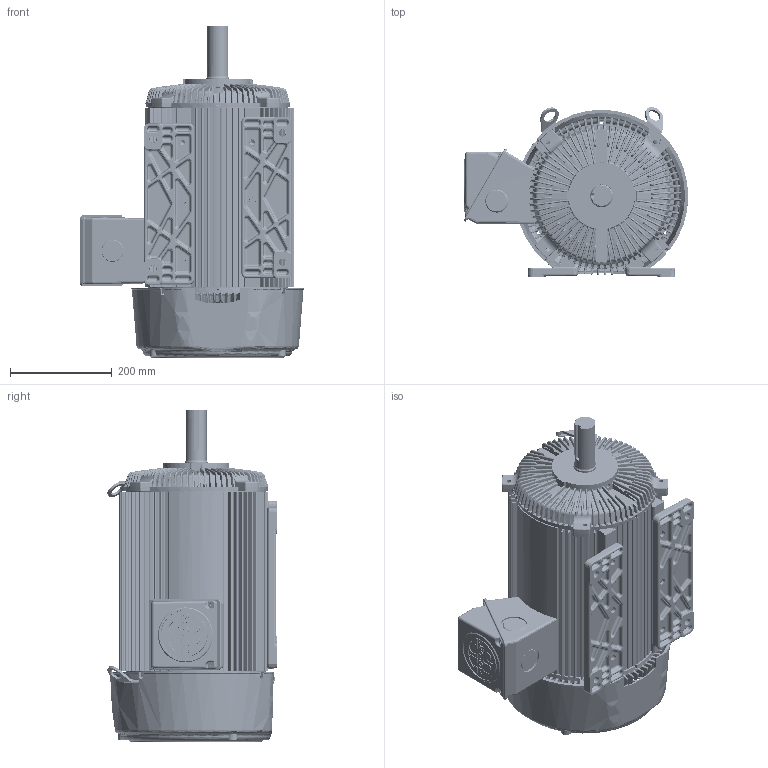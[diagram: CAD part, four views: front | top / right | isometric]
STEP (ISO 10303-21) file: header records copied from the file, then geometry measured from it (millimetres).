
FILE_DESCRIPTION((''),'2;1');
FILE_NAME('STD_SHORT_NON_FLNG_ASM','2019-11-21T09:13:06',('EMD2341'),('Nidec Motor Corporation'),'CREO PARAMETRIC BY PTC INC, 2018300','CREO PARAMETRIC BY PTC INC, 2018300','');
FILE_SCHEMA(('CONFIG_CONTROL_DESIGN'));
Length unit declared in the file: inch
Products named in the file (17): 0375096_AF0; 0375099-BKT_AF7; 2033996-004_AF1; 0375600_ASM; 0375097-BKT_AF1; 0362224_AF1; 0375098_ASM; 0172877; 0364285; 0417043; 0356644; 0587751; 0369733; 0364282; 0364292; 0362104; STD_SHORT_NON_FLNG_ASM
Assembly tree (18 placements, depth 3):
  STD_SHORT_NON_FLNG_ASM
    0375096_AF0
    0375600_ASM
      0375099-BKT_AF7
      2033996-004_AF1
    0375098_ASM
      0375097-BKT_AF1
      0362224_AF1
    0172877
    0364285
    0417043
    0356644
    0587751
    0369733  x2
    0364282
    0364292
    0362104  x2
Bounding box: 440.82 x 332.48 x 651.83 mm (x, y, z)
Volume: 7605145.5 mm3; surface area: 2596189.9 mm2
Topology: 20 solids, 22 shells, 10998 faces, 26332 edges, 15363 vertices
Faces by surface type: bspline 5116, plane 1902, cylinder 1614, torus 1067, cone 647, extrusion 392, sphere 260
Entity records: 541423 total; most frequent: CARTESIAN_POINT 334960, ORIENTED_EDGE 50130, DIRECTION 32473, EDGE_CURVE 25069, VERTEX_POINT 14686, AXIS2_PLACEMENT_3D 12978, B_SPLINE_CURVE_WITH_KNOTS 11492, EDGE_LOOP 10689
